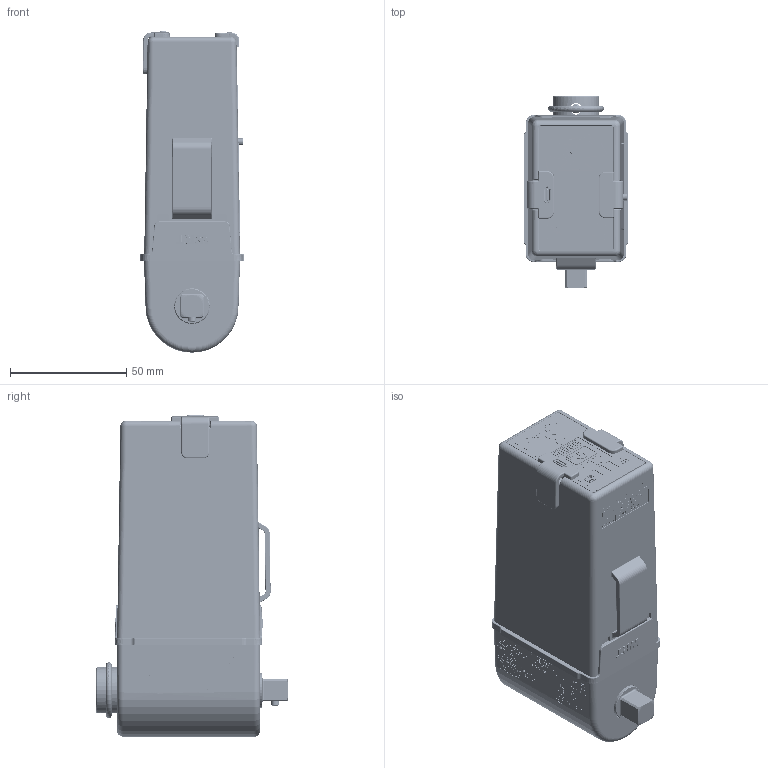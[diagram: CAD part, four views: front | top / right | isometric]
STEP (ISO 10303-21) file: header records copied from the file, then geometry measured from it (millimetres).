
FILE_DESCRIPTION((''),'2;1');
FILE_NAME('6152210540_DIM','2024-03-01T15:18:49',('S00000450'),(''),'CREO PARAMETRIC BY PTC INC, 2023254','CREO PARAMETRIC BY PTC INC, 2023254','');
FILE_SCHEMA(('AP242_MANAGED_MODEL_BASED_3D_ENGINEERING_MIM_LF { 1 0 10303 442 1 1 4 }'));
Products named in the file (1): 6152210540_DIM
Bounding box: 45 x 82.6 x 138.33 mm (x, y, z)
Volume: 118386.9 mm3; surface area: 93726 mm2
Topology: 5 solids, 5 shells, 8991 faces, 24566 edges, 16105 vertices
Faces by surface type: plane 4240, extrusion 3259, cylinder 826, cone 320, torus 195, bspline 135, sphere 16
Entity records: 369206 total; most frequent: CARTESIAN_POINT 99794, ORIENTED_EDGE 48990, DIRECTION 33854, EDGE_CURVE 24495, VECTOR 18278, VERTEX_POINT 16105, LINE 15019, B_SPLINE_CURVE_WITH_KNOTS 10544
